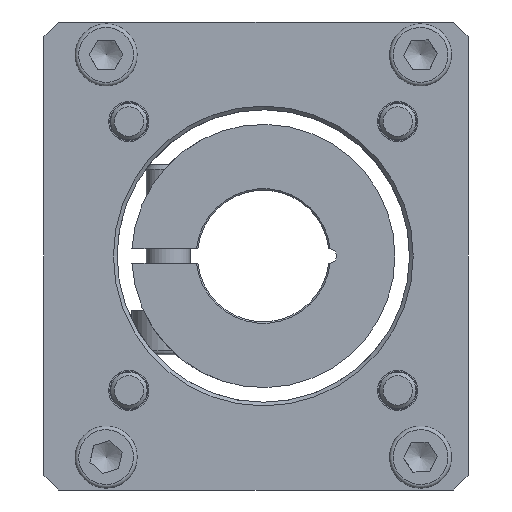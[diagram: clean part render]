
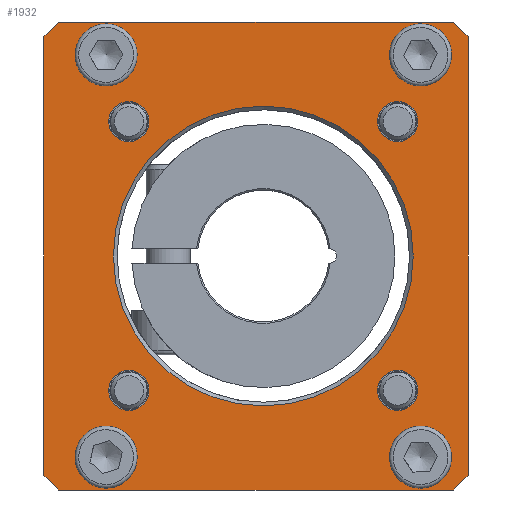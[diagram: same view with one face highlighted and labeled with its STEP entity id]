
A CAD part, left-side view. The second image highlights one B-rep face of the part: STEP entity #1932.
In plain terms, the highlighted planar face has unit normal (-1, 0, 0) as drawn and (0, 0, 1) by its records, which use the part's own axes.
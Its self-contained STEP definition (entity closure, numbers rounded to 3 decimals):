
#100=FACE_BOUND('',#687,.T.);
#101=FACE_BOUND('',#688,.T.);
#102=FACE_BOUND('',#689,.T.);
#103=FACE_BOUND('',#690,.T.);
#104=FACE_BOUND('',#691,.T.);
#105=FACE_BOUND('',#692,.T.);
#106=FACE_BOUND('',#693,.T.);
#107=FACE_BOUND('',#694,.T.);
#108=FACE_BOUND('',#695,.T.);
#190=PLANE('',#2166);
#285=LINE('',#3171,#406);
#286=LINE('',#3173,#407);
#287=LINE('',#3175,#408);
#288=LINE('',#3177,#409);
#289=LINE('',#3179,#410);
#290=LINE('',#3181,#411);
#291=LINE('',#3183,#412);
#292=LINE('',#3184,#413);
#406=VECTOR('',#2542,10.);
#407=VECTOR('',#2543,10.);
#408=VECTOR('',#2544,10.);
#409=VECTOR('',#2545,10.);
#410=VECTOR('',#2546,10.);
#411=VECTOR('',#2547,10.);
#412=VECTOR('',#2548,10.);
#413=VECTOR('',#2549,10.);
#546=FACE_OUTER_BOUND('',#686,.T.);
#686=EDGE_LOOP('',(#1547,#1548,#1549,#1550,#1551,#1552,#1553,#1554));
#687=EDGE_LOOP('',(#1555));
#688=EDGE_LOOP('',(#1556));
#689=EDGE_LOOP('',(#1557));
#690=EDGE_LOOP('',(#1558));
#691=EDGE_LOOP('',(#1559));
#692=EDGE_LOOP('',(#1560));
#693=EDGE_LOOP('',(#1561));
#694=EDGE_LOOP('',(#1562));
#695=EDGE_LOOP('',(#1563));
#873=CIRCLE('',#2165,20.5);
#874=CIRCLE('',#2167,2.75);
#875=CIRCLE('',#2168,2.75);
#876=CIRCLE('',#2169,2.75);
#877=CIRCLE('',#2170,2.75);
#878=CIRCLE('',#2171,2.75);
#879=CIRCLE('',#2172,2.75);
#880=CIRCLE('',#2173,2.75);
#881=CIRCLE('',#2174,2.75);
#1007=VERTEX_POINT('',#3166);
#1008=VERTEX_POINT('',#3169);
#1009=VERTEX_POINT('',#3170);
#1010=VERTEX_POINT('',#3172);
#1011=VERTEX_POINT('',#3174);
#1012=VERTEX_POINT('',#3176);
#1013=VERTEX_POINT('',#3178);
#1014=VERTEX_POINT('',#3180);
#1015=VERTEX_POINT('',#3182);
#1016=VERTEX_POINT('',#3185);
#1017=VERTEX_POINT('',#3187);
#1018=VERTEX_POINT('',#3189);
#1019=VERTEX_POINT('',#3191);
#1020=VERTEX_POINT('',#3193);
#1021=VERTEX_POINT('',#3195);
#1022=VERTEX_POINT('',#3197);
#1023=VERTEX_POINT('',#3199);
#1219=EDGE_CURVE('',#1007,#1007,#873,.T.);
#1220=EDGE_CURVE('',#1008,#1009,#285,.T.);
#1221=EDGE_CURVE('',#1008,#1010,#286,.T.);
#1222=EDGE_CURVE('',#1011,#1010,#287,.T.);
#1223=EDGE_CURVE('',#1011,#1012,#288,.T.);
#1224=EDGE_CURVE('',#1013,#1012,#289,.T.);
#1225=EDGE_CURVE('',#1013,#1014,#290,.T.);
#1226=EDGE_CURVE('',#1015,#1014,#291,.T.);
#1227=EDGE_CURVE('',#1015,#1009,#292,.T.);
#1228=EDGE_CURVE('',#1016,#1016,#874,.T.);
#1229=EDGE_CURVE('',#1017,#1017,#875,.T.);
#1230=EDGE_CURVE('',#1018,#1018,#876,.T.);
#1231=EDGE_CURVE('',#1019,#1019,#877,.T.);
#1232=EDGE_CURVE('',#1020,#1020,#878,.T.);
#1233=EDGE_CURVE('',#1021,#1021,#879,.T.);
#1234=EDGE_CURVE('',#1022,#1022,#880,.T.);
#1235=EDGE_CURVE('',#1023,#1023,#881,.T.);
#1547=ORIENTED_EDGE('',*,*,#1220,.F.);
#1548=ORIENTED_EDGE('',*,*,#1221,.T.);
#1549=ORIENTED_EDGE('',*,*,#1222,.F.);
#1550=ORIENTED_EDGE('',*,*,#1223,.T.);
#1551=ORIENTED_EDGE('',*,*,#1224,.F.);
#1552=ORIENTED_EDGE('',*,*,#1225,.T.);
#1553=ORIENTED_EDGE('',*,*,#1226,.F.);
#1554=ORIENTED_EDGE('',*,*,#1227,.T.);
#1555=ORIENTED_EDGE('',*,*,#1228,.T.);
#1556=ORIENTED_EDGE('',*,*,#1229,.T.);
#1557=ORIENTED_EDGE('',*,*,#1230,.T.);
#1558=ORIENTED_EDGE('',*,*,#1231,.T.);
#1559=ORIENTED_EDGE('',*,*,#1232,.T.);
#1560=ORIENTED_EDGE('',*,*,#1233,.T.);
#1561=ORIENTED_EDGE('',*,*,#1234,.T.);
#1562=ORIENTED_EDGE('',*,*,#1235,.T.);
#1563=ORIENTED_EDGE('',*,*,#1219,.F.);
#1932=ADVANCED_FACE('',(#546,#100,#101,#102,#103,#104,#105,#106,#107,#108),
#190,.T.);
#2165=AXIS2_PLACEMENT_3D('',#3167,#2538,#2539);
#2166=AXIS2_PLACEMENT_3D('',#3168,#2540,#2541);
#2167=AXIS2_PLACEMENT_3D('',#3186,#2550,#2551);
#2168=AXIS2_PLACEMENT_3D('',#3188,#2552,#2553);
#2169=AXIS2_PLACEMENT_3D('',#3190,#2554,#2555);
#2170=AXIS2_PLACEMENT_3D('',#3192,#2556,#2557);
#2171=AXIS2_PLACEMENT_3D('',#3194,#2558,#2559);
#2172=AXIS2_PLACEMENT_3D('',#3196,#2560,#2561);
#2173=AXIS2_PLACEMENT_3D('',#3198,#2562,#2563);
#2174=AXIS2_PLACEMENT_3D('',#3200,#2564,#2565);
#2538=DIRECTION('center_axis',(0.,0.,1.));
#2539=DIRECTION('ref_axis',(-1.,0.,0.));
#2540=DIRECTION('center_axis',(0.,0.,1.));
#2541=DIRECTION('ref_axis',(1.,0.,0.));
#2542=DIRECTION('',(0.707,0.707,0.));
#2543=DIRECTION('',(0.,-1.,0.));
#2544=DIRECTION('',(-0.707,0.707,0.));
#2545=DIRECTION('',(1.,0.,0.));
#2546=DIRECTION('',(-0.707,-0.707,0.));
#2547=DIRECTION('',(0.,1.,0.));
#2548=DIRECTION('',(0.707,-0.707,0.));
#2549=DIRECTION('',(-1.,0.,0.));
#2550=DIRECTION('center_axis',(0.,0.,-1.));
#2551=DIRECTION('ref_axis',(-1.,0.,0.));
#2552=DIRECTION('center_axis',(0.,0.,-1.));
#2553=DIRECTION('ref_axis',(-1.,0.,0.));
#2554=DIRECTION('center_axis',(0.,0.,-1.));
#2555=DIRECTION('ref_axis',(-1.,0.,0.));
#2556=DIRECTION('center_axis',(0.,0.,-1.));
#2557=DIRECTION('ref_axis',(-1.,0.,0.));
#2558=DIRECTION('center_axis',(0.,0.,-1.));
#2559=DIRECTION('ref_axis',(1.,0.,0.));
#2560=DIRECTION('center_axis',(0.,0.,-1.));
#2561=DIRECTION('ref_axis',(1.,0.,0.));
#2562=DIRECTION('center_axis',(0.,0.,-1.));
#2563=DIRECTION('ref_axis',(1.,0.,0.));
#2564=DIRECTION('center_axis',(0.,0.,-1.));
#2565=DIRECTION('ref_axis',(1.,0.,0.));
#3166=CARTESIAN_POINT('',(20.5,0.,8.5));
#3167=CARTESIAN_POINT('Origin',(0.,0.,8.5));
#3168=CARTESIAN_POINT('Origin',(0.,-1.,8.5));
#3169=CARTESIAN_POINT('',(-32.,26.,8.5));
#3170=CARTESIAN_POINT('',(-30.,28.,8.5));
#3171=CARTESIAN_POINT('',(-30.25,27.75,8.5));
#3172=CARTESIAN_POINT('',(-32.,-28.,8.5));
#3173=CARTESIAN_POINT('',(-32.,-30.,8.5));
#3174=CARTESIAN_POINT('',(-30.,-30.,8.5));
#3175=CARTESIAN_POINT('',(-30.25,-29.75,8.5));
#3176=CARTESIAN_POINT('',(30.,-30.,8.5));
#3177=CARTESIAN_POINT('',(32.,-30.,8.5));
#3178=CARTESIAN_POINT('',(32.,-28.,8.5));
#3179=CARTESIAN_POINT('',(30.25,-29.75,8.5));
#3180=CARTESIAN_POINT('',(32.,26.,8.5));
#3181=CARTESIAN_POINT('',(32.,28.,8.5));
#3182=CARTESIAN_POINT('',(30.,28.,8.5));
#3183=CARTESIAN_POINT('',(30.25,27.75,8.5));
#3184=CARTESIAN_POINT('',(-32.,28.,8.5));
#3185=CARTESIAN_POINT('',(21.135,-18.385,8.5));
#3186=CARTESIAN_POINT('Origin',(18.385,-18.385,8.5));
#3187=CARTESIAN_POINT('',(-15.635,18.385,8.5));
#3188=CARTESIAN_POINT('Origin',(-18.385,18.385,8.5));
#3189=CARTESIAN_POINT('',(21.135,18.385,8.5));
#3190=CARTESIAN_POINT('Origin',(18.385,18.385,8.5));
#3191=CARTESIAN_POINT('',(-15.635,-18.385,8.5));
#3192=CARTESIAN_POINT('Origin',(-18.385,-18.385,8.5));
#3193=CARTESIAN_POINT('',(-24.75,-21.5,8.5));
#3194=CARTESIAN_POINT('Origin',(-27.5,-21.5,8.5));
#3195=CARTESIAN_POINT('',(30.25,21.5,8.5));
#3196=CARTESIAN_POINT('Origin',(27.5,21.5,8.5));
#3197=CARTESIAN_POINT('',(-24.75,21.5,8.5));
#3198=CARTESIAN_POINT('Origin',(-27.5,21.5,8.5));
#3199=CARTESIAN_POINT('',(30.25,-21.5,8.5));
#3200=CARTESIAN_POINT('Origin',(27.5,-21.5,8.5));
